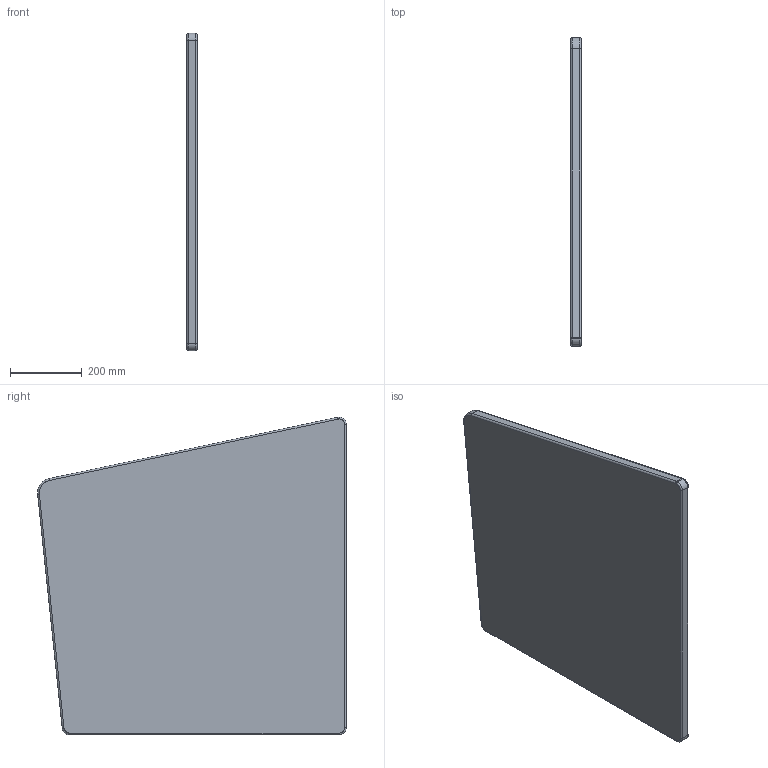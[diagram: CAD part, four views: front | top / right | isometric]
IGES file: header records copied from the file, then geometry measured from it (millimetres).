
Start section: SolidWorks IGES file using analytic representation for surfaces
Global section: file name: Z:\01-VICCARBE\PRODUCTOS\53-SISTEMA\04-MODELADOS (PLANOS)\WEB\High arm\Viccarbe_Sistema_High arm.IGS; native system: SolidWorks 2013; preprocessor: SolidWorks 2013; author: bdisenyo; date: 170419.174028; units: millimetre
Bounding box: 30 x 860.62 x 885.3 mm (x, y, z)
Surface area: 1409077.6 mm2 (no closed solid volume)
Topology: 0 solids, 0 shells, 29 faces, 182 edges, 182 vertices
Faces by surface type: bspline 16, revolution 13
